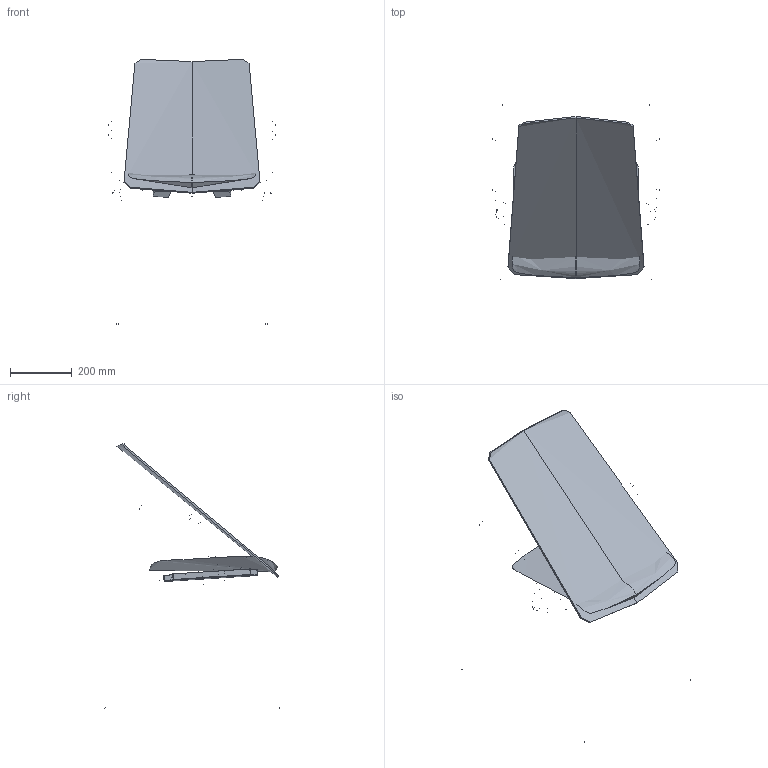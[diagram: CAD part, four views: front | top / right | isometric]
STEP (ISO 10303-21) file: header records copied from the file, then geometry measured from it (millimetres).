
FILE_DESCRIPTION(/* description */ (''),/* implementation_level */ '2;1');
FILE_NAME(/* name */ 'Evo 011-BR,SR',/* time_stamp */ '2023-03-21T17:11:23+01:00',/* author */ (''),/* organization */ (''),/* preprocessor_version */ 'ST-DEVELOPER v16.5',/* originating_system */ 'Rhino 7.27',/* authorisation */ '');
FILE_SCHEMA (('CONFIG_CONTROL_DESIGN'));
Length unit declared in the file: millimetre
Products named in the file (1): Document
Bounding box: 540 x 569.47 x 862.02 mm (x, y, z)
Volume: 249489.7 mm3; surface area: 1367334.7 mm2
Topology: 4 solids, 24 shells, 106 faces, 229 edges, 143 vertices
Faces by surface type: bspline 50, cylinder 28, plane 28
Full cylindrical faces by diameter (mm): 6 x6, 18 x8, 22 x12, 24 x2
Entity records: 8057 total; most frequent: CARTESIAN_POINT 6516, ORIENTED_EDGE 410, EDGE_CURVE 225, VERTEX_POINT 139, ADVANCED_FACE 106, FACE_OUTER_BOUND 106, EDGE_LOOP 106, B_SPLINE_CURVE_WITH_KNOTS 104
